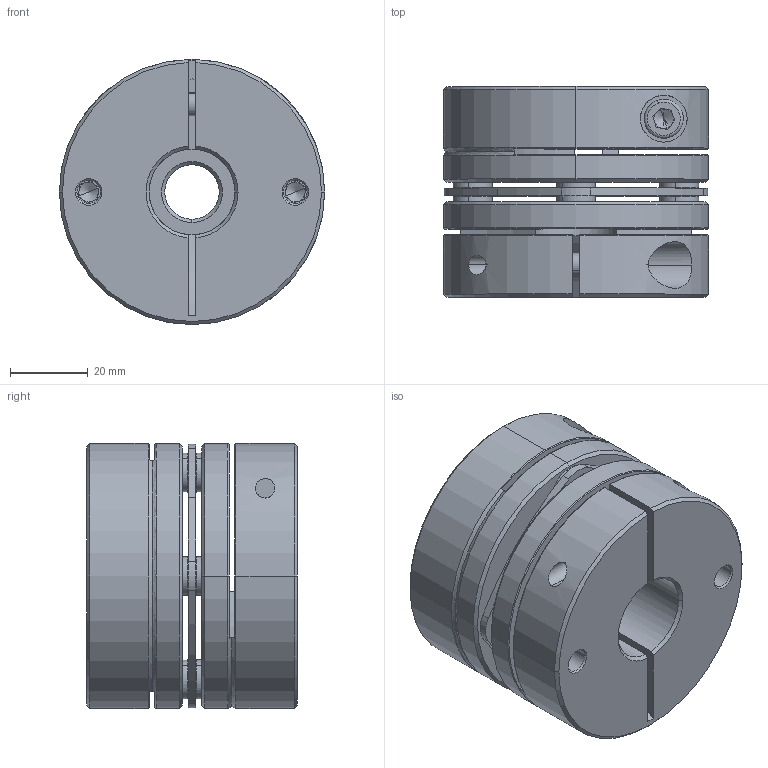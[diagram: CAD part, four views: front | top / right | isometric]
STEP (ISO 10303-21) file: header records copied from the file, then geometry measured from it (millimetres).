
FILE_DESCRIPTION (( 'STEP AP203' ), '1' );
FILE_NAME ('LD1-D68-14-22.STEP', '2021-10-26T07:45:41', ( '' ), ( '' ), 'SwSTEP 2.0', 'SolidWorks 2018', '' );
FILE_SCHEMA (( 'CONFIG_CONTROL_DESIGN' ));
Length unit declared in the file: millimetre
Products named in the file (2): 錨璃101^LD1-D68; LD1-D68-14-22
Assembly tree (1 placements, depth 2):
  LD1-D68-14-22
    錨璃101^LD1-D68
Bounding box: 68 x 54 x 68 mm (x, y, z)
Volume: 153133.1 mm3; surface area: 47024.1 mm2
Topology: 1 solids, 15 shells, 443 faces, 1063 edges, 652 vertices
Faces by surface type: cylinder 161, plane 138, cone 122, torus 22
Entity records: 13477 total; most frequent: CARTESIAN_POINT 2615, DIRECTION 2435, ORIENTED_EDGE 2094, EDGE_CURVE 1047, AXIS2_PLACEMENT_3D 988, VERTEX_POINT 652, CIRCLE 541, EDGE_LOOP 523
